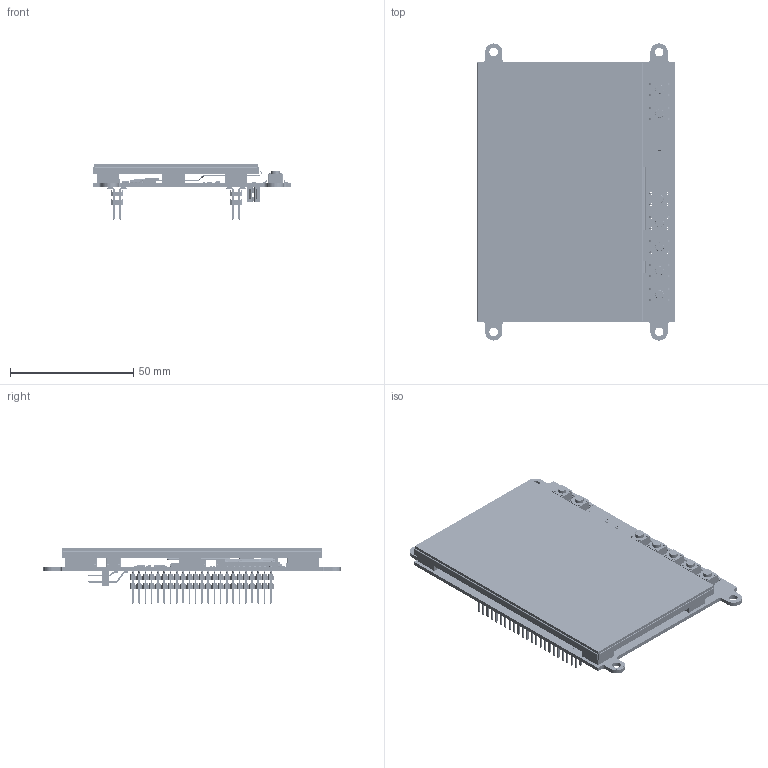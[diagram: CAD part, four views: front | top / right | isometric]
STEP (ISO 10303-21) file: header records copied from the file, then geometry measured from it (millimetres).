
FILE_DESCRIPTION (( 'STEP AP214' ), '1' );
FILE_NAME ('4DCAPE-43_stepmodel_R_1_11.STEP', '2013-07-25T23:48:10', ( '' ), ( '' ), 'SwSTEP 2.0', 'SolidWorks 2010', '' );
FILE_SCHEMA (( 'AUTOMOTIVE_DESIGN' ));
Length unit declared in the file: millimetre
Products named in the file (123): 4DCAPE-43-REV1.11_Outline; BottomComponents-4DCAPE-43; P1_A; P1_B; p1mkcd46gfya18080000b; P1MKCD46GFYA18080000B_1; P1MKCD46GFYA18080000B; P1MKCD46GFYA18080000BPIN; J1; Samtec-TSM-102-01-L-DH-A; TopComponents-4DCAPE-43; C1; C2; D1; User_Library-SOD-123_DiodesInc; L2; Inductor-1210; LED1; LED2; User_Library-led_0805LED0805_blue; Q1; Q2; R1; R2; R3; R4; R5; R7; R8; R9; R10; R12; R13; R14; R15; R16; R17; R18; R19; R20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
Assembly tree (249 placements, depth 5):
  4DCAPE-43_stepmodel_R_1_11
    3mm-Sticky-Pad-9x9  x5
    Flat-Flex
      Flat-BottomFlex2
      Flat-Flexy
      Flat-FlexBoard
      Flat-BottomFlex
    4DCAPE-43-REV1.11_Outline
    CE
    TopComponents-4DCAPE-43
      D1
        User_Library-SOD-123_DiodesInc
      R29
        User_Library-RES_0603L
          User_Library-RES_0603L_RES_0603_Lead_1  x2
          User_Library-RES_0603L_RES_0603_Body_1
      C2
        User_Library-cap_0603_lowprofile
      R4
        User_Library-RES_0603L
          User_Library-RES_0603L_RES_0603_Lead_1  x2
          User_Library-RES_0603L_RES_0603_Body_1
      R12
        User_Library-RES_0603L
          User_Library-RES_0603L_RES_0603_Lead_1  x2
          User_Library-RES_0603L_RES_0603_Body_1
      R19
        User_Library-RES_0603L
          User_Library-RES_0603L_RES_0603_Lead_1  x2
          User_Library-RES_0603L_RES_0603_Body_1
      R24
        User_Library-RES_0603L
          User_Library-RES_0603L_RES_0603_Lead_1  x2
          User_Library-RES_0603L_RES_0603_Body_1
      R11
        User_Library-RES_0603L
          User_Library-RES_0603L_RES_0603_Lead_1  x2
          User_Library-RES_0603L_RES_0603_Body_1
      R45
        User_Library-RES_0603L
          User_Library-RES_0603L_RES_0603_Lead_1  x2
          User_Library-RES_0603L_RES_0603_Body_1
      U2
        User_Library-SOIC-8-150
          User_Library-SOIC-8-150_pin_SOIC_SO-150_1  x8
          User_Library-SOIC-8-150_SOIC_150_SOIC_5X4_1
      R28
        User_Library-RES_0603L
          User_Library-RES_0603L_RES_0603_Lead_1  x2
          User_Library-RES_0603L_RES_0603_Body_1
      R37
        User_Library-RES_0603L
          User_Library-RES_0603L_RES_0603_Lead_1  x2
          User_Library-RES_0603L_RES_0603_Body_1
      R3
        User_Library-RES_0603L
          User_Library-RES_0603L_RES_0603_Lead_1  x2
          User_Library-RES_0603L_RES_0603_Body_1
      R10
        User_Library-RES_0603L
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Bounding box: 80 x 120.39 x 22.44 mm (x, y, z)
Volume: 52052.5 mm3; surface area: 97562.6 mm2
Topology: 1546 solids, 1546 shells, 27629 faces, 69879 edges, 45624 vertices
Faces by surface type: plane 22470, cylinder 2646, bspline 2509, torus 2, cone 2
Entity records: 1011490 total; most frequent: CARTESIAN_POINT 270949, ORIENTED_EDGE 110180, DIRECTION 93213, EDGE_CURVE 55090, LINE 46169, VECTOR 46169, VERTEX_POINT 36398, AXIS2_PLACEMENT_3D 23522
